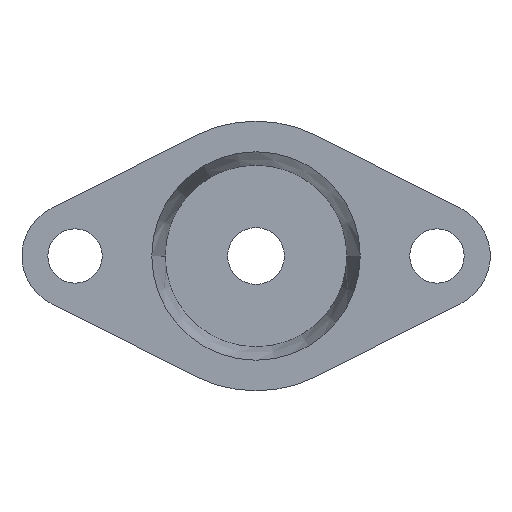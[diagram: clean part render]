
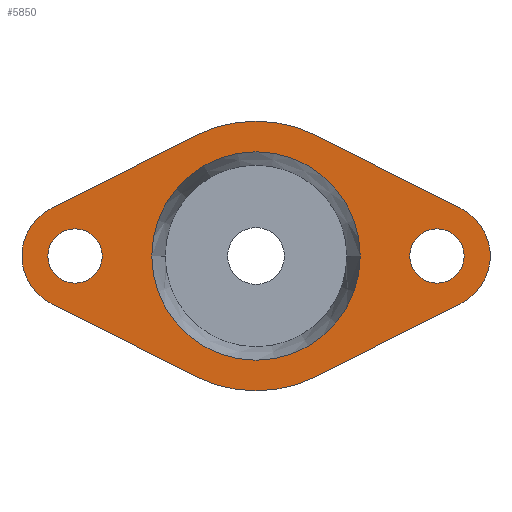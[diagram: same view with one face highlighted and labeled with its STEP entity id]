
A CAD part, left-side view. The second image highlights one B-rep face of the part: STEP entity #5850.
In plain terms, the highlighted planar face has unit normal (-1, 0, 0).
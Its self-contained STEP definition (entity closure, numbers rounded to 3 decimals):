
#120=CARTESIAN_POINT('',(-17.,22.026,0.));
#130=VERTEX_POINT('',#120);
#160=CARTESIAN_POINT('',(-17.,0.,0.));
#170=DIRECTION('',(-1.,0.,0.));
#180=DIRECTION('',(0.,1.,0.));
#190=AXIS2_PLACEMENT_3D('',#160,#170,#180);
#200=CIRCLE('',#190,22.026);
#210=CARTESIAN_POINT('',(-17.,-22.026,0.));
#220=VERTEX_POINT('',#210);
#230=EDGE_CURVE('',#220,#130,#200,.T.);
#2050=CARTESIAN_POINT('',(-17.,12.853,-25.437));
#2060=VERTEX_POINT('',#2050);
#2090=CARTESIAN_POINT('',(-17.,0.,
0.));
#2100=DIRECTION('',(-1.,0.,0.));
#2110=DIRECTION('',(0.,0.451,0.893));
#2120=AXIS2_PLACEMENT_3D('',#2090,#2100,#2110);
#2130=CIRCLE('',#2120,28.5);
#2140=CARTESIAN_POINT('',(-17.,-12.853,-25.437));
#2150=VERTEX_POINT('',#2140);
#2160=EDGE_CURVE('',#2060,#2150,#2130,.T.);
#2430=CARTESIAN_POINT('',(-17.,-38.25,-5.75));
#2440=VERTEX_POINT('VERTEX54383',#2430);
#2470=CARTESIAN_POINT('',(-17.,-38.25,0.));
#2480=DIRECTION('',(1.,0.,0.));
#2490=DIRECTION('',(0.,0.,-1.));
#2500=AXIS2_PLACEMENT_3D('',#2470,#2480,#2490);
#2510=CIRCLE('',#2500,5.75);
#2520=CARTESIAN_POINT('',(-17.,-38.25,5.75));
#2530=VERTEX_POINT('',#2520);
#2540=EDGE_CURVE('',#2440,#2530,#2510,.T.);
#2700=CARTESIAN_POINT('',(-17.,-12.853,25.437));
#2710=VERTEX_POINT('',#2700);
#2740=CARTESIAN_POINT('',(-17.,0.,
0.));
#2750=DIRECTION('',(-1.,0.,0.));
#2760=DIRECTION('',(0.,0.451,0.893));
#2770=AXIS2_PLACEMENT_3D('',#2740,#2750,#2760);
#2780=CIRCLE('',#2770,28.5);
#2790=CARTESIAN_POINT('',(-17.,12.853,25.437));
#2800=VERTEX_POINT('',#2790);
#2810=EDGE_CURVE('',#2710,#2800,#2780,.T.);
#3080=CARTESIAN_POINT('',(-17.,-43.324,10.041));
#3090=VERTEX_POINT('',#3080);
#3170=CARTESIAN_POINT('',(-17.,-43.324,-10.041));
#3180=VERTEX_POINT('',#3170);
#3210=CARTESIAN_POINT('',(-17.,-38.25,0.));
#3220=DIRECTION('',(-1.,0.,0.));
#3230=DIRECTION('',(0.,-0.451,0.893));
#3240=AXIS2_PLACEMENT_3D('',#3210,#3220,#3230);
#3250=CIRCLE('',#3240,11.25);
#3260=EDGE_CURVE('EDGE82968',#3180,#3090,#3250,.T.);
#3400=CARTESIAN_POINT('',(-17.,38.25,-5.75));
#3410=VERTEX_POINT('',#3400);
#3440=CARTESIAN_POINT('',(-17.,38.25,0.));
#3450=DIRECTION('',(1.,0.,0.));
#3460=DIRECTION('',(0.,0.,-1.));
#3470=AXIS2_PLACEMENT_3D('',#3440,#3450,#3460);
#3480=CIRCLE('',#3470,5.75);
#3490=CARTESIAN_POINT('',(-17.,38.25,5.75));
#3500=VERTEX_POINT('VERTEX54393',#3490);
#3510=EDGE_CURVE('EDGE82973',#3410,#3500,#3480,.T.);
#3680=CARTESIAN_POINT('',(-17.,0.,-31.932));
#3690=DIRECTION('',(0.,0.893,-0.451));
#3700=VECTOR('',#3690,1.);
#3710=LINE('',#3680,#3700);
#3720=EDGE_CURVE('',#3180,#2150,#3710,.T.);
#3890=CARTESIAN_POINT('',(-17.,43.324,-10.041));
#3900=VERTEX_POINT('',#3890);
#3980=CARTESIAN_POINT('',(-17.,43.324,10.041));
#3990=VERTEX_POINT('',#3980);
#4020=CARTESIAN_POINT('',(-17.,38.25,0.));
#4030=DIRECTION('',(-1.,0.,0.));
#4040=DIRECTION('',(0.,0.451,-0.893));
#4050=AXIS2_PLACEMENT_3D('',#4020,#4030,#4040);
#4060=CIRCLE('',#4050,11.25);
#4070=EDGE_CURVE('EDGE82978',#3990,#3900,#4060,.T.);
#5090=CARTESIAN_POINT('',(-17.,0.,31.932));
#5100=DIRECTION('',(0.,-0.893,0.451));
#5110=VECTOR('',#5100,1.);
#5120=LINE('',#5090,#5110);
#5130=EDGE_CURVE('',#3990,#2800,#5120,.T.);
#5280=CARTESIAN_POINT('',(-17.,0.,31.932));
#5290=DIRECTION('',(0.,-0.893,-0.451));
#5300=VECTOR('',#5290,1.);
#5310=LINE('',#5280,#5300);
#5320=EDGE_CURVE('',#2710,#3090,#5310,.T.);
#5450=CARTESIAN_POINT('',(-17.,0.,-31.932));
#5460=DIRECTION('',(0.,0.893,0.451));
#5470=VECTOR('',#5460,1.);
#5480=LINE('',#5450,#5470);
#5490=EDGE_CURVE('',#2060,#3900,#5480,.T.);
#5550=CARTESIAN_POINT('',(-17.,60.513,0.));
#5560=DIRECTION('',(-1.,0.,0.));
#5570=DIRECTION('',(0.,1.,0.));
#5580=AXIS2_PLACEMENT_3D('',#5550,#5560,#5570);
#5590=PLANE('',#5580);
#5600=ORIENTED_EDGE('',*,*,#5130,.F.);
#5610=ORIENTED_EDGE('',*,*,#2810,.T.);
#5620=ORIENTED_EDGE('',*,*,#5320,.F.);
#5630=ORIENTED_EDGE('',*,*,#3260,.T.);
#5640=ORIENTED_EDGE('',*,*,#3720,.F.);
#5650=ORIENTED_EDGE('',*,*,#2160,.T.);
#5660=ORIENTED_EDGE('',*,*,#5490,.F.);
#5670=ORIENTED_EDGE('',*,*,#4070,.T.);
#5680=EDGE_LOOP('',(#5670,#5660,#5650,#5640,#5630,#5620,#5610,#5600));
#5690=FACE_OUTER_BOUND('',#5680,.T.);
#5700=ORIENTED_EDGE('',*,*,#2540,.T.);
#5710=EDGE_CURVE('EDGE82967',#2530,#2440,#2510,.T.);
#5720=ORIENTED_EDGE('',*,*,#5710,.T.);
#5730=EDGE_LOOP('',(#5720,#5700));
#5740=FACE_BOUND('',#5730,.T.);
#5750=EDGE_CURVE('',#130,#220,#200,.T.);
#5760=ORIENTED_EDGE('',*,*,#5750,.F.);
#5770=ORIENTED_EDGE('',*,*,#230,.F.);
#5780=EDGE_LOOP('',(#5770,#5760));
#5790=FACE_BOUND('',#5780,.T.);
#5800=EDGE_CURVE('',#3500,#3410,#3480,.T.);
#5810=ORIENTED_EDGE('',*,*,#5800,.T.);
#5820=ORIENTED_EDGE('',*,*,#3510,.T.);
#5830=EDGE_LOOP('',(#5820,#5810));
#5840=FACE_BOUND('',#5830,.T.);
#5850=ADVANCED_FACE('',(#5690,#5740,#5790,#5840),#5590,.T.);
